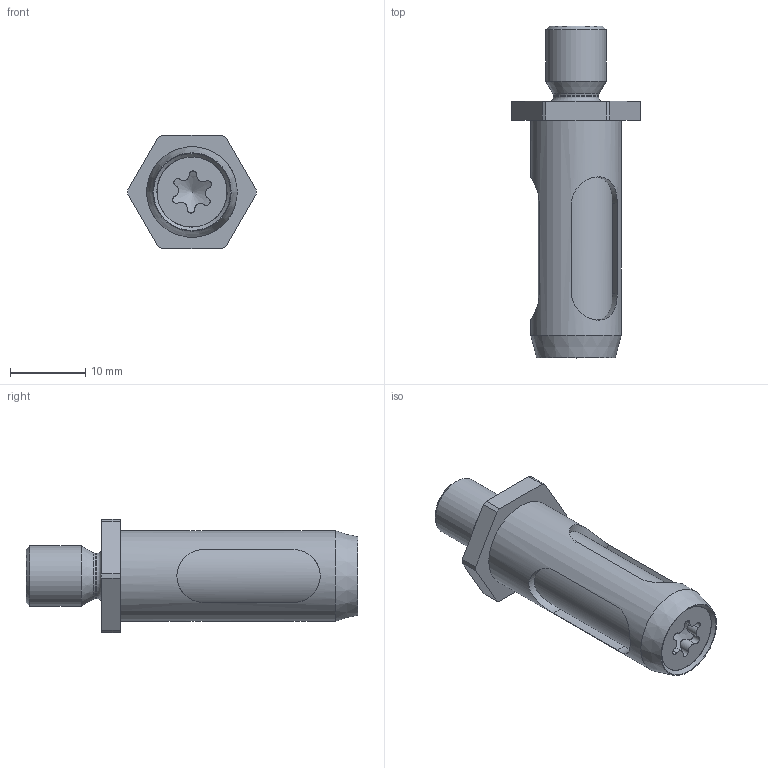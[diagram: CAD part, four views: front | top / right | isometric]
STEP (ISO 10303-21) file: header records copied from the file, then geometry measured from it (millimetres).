
FILE_DESCRIPTION(/* description */ (''),/* implementation_level */ '2;1');
FILE_NAME(/* name */ '\\dc01\daten\CAD\Standard\Daten\3D-Datenbank\GI\GIS\4 - 3D-CAD-Daten GIS 004-020\G-GIS012\G-GIS012_Rev.1.02.stp',/* time_stamp */ '2022-11-29T15:56:40+01:00',/* author */ ('ysplieth'),/* organization */ (''),/* preprocessor_version */ 'ST-DEVELOPER v17',/* originating_system */ 'Autodesk Inventor 2018',/* authorisation */ '');
FILE_SCHEMA (('AUTOMOTIVE_DESIGN { 1 0 10303 214 3 1 1 }'));
Length unit declared in the file: millimetre
Products named in the file (1): Bauteil13
Bounding box: 17 x 44 x 15 mm (x, y, z)
Volume: 3469.2 mm3; surface area: 3845.1 mm2
Topology: 1 solids, 4 shells, 78 faces, 216 edges, 149 vertices
Faces by surface type: cylinder 41, plane 23, cone 11, torus 3
Full cylindrical faces by diameter (mm): 4 x2, 4.134 x2, 5 x1, 5.5 x1, 6 x1, 7.8 x1, 8 x2, 9.3 x1, 10 x2, 12 x1
Entity records: 3179 total; most frequent: CARTESIAN_POINT 1038, ORIENTED_EDGE 426, DIRECTION 422, EDGE_CURVE 213, AXIS2_PLACEMENT_3D 167, VERTEX_POINT 149, EDGE_LOOP 92, LINE 88
